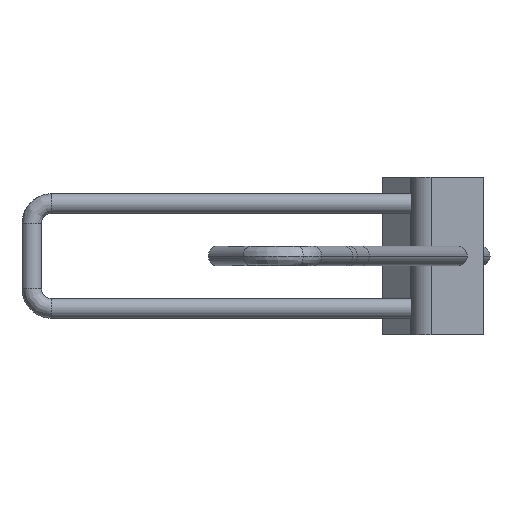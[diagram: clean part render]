
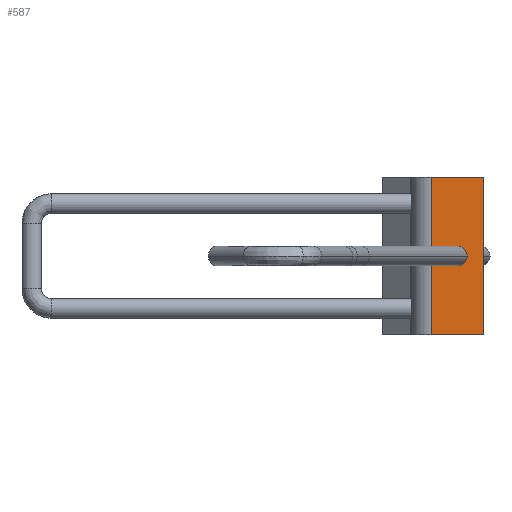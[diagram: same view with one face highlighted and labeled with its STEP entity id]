
A CAD part, left-side view. The second image highlights one B-rep face of the part: STEP entity #587.
In plain terms, the highlighted planar face has unit normal (-1, 0, 0).
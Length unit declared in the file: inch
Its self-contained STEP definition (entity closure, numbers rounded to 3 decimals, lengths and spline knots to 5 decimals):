
#513=EDGE_CURVE('',#1041,#1250,#1251,.T.);
#585=EDGE_CURVE('',#1250,#1359,#1360,.T.);
#587=ADVANCED_FACE('',(#1362,#1363),#1364,.T.);
#693=EDGE_CURVE('',#1509,#1510,#1511,.T.);
#821=EDGE_CURVE('',#1603,#1359,#1675,.T.);
#879=EDGE_CURVE('',#1041,#1603,#1740,.T.);
#925=EDGE_CURVE('',#1510,#1509,#1793,.T.);
#1041=VERTEX_POINT('',#1931);
#1250=VERTEX_POINT('',#2345);
#1251=LINE('',#2346,#2347);
#1359=VERTEX_POINT('',#2864);
#1360=LINE('',#2865,#2866);
#1362=FACE_OUTER_BOUND('',#2868,.T.);
#1363=FACE_BOUND('',#2869,.T.);
#1364=PLANE('',#2870);
#1509=VERTEX_POINT('',#3187);
#1510=VERTEX_POINT('',#3188);
#1511=ELLIPSE('',#3189,0.19058,0.1875);
#1603=VERTEX_POINT('',#3430);
#1675=LINE('',#3569,#3570);
#1740=LINE('',#3872,#3873);
#1793=ELLIPSE('',#3978,0.19058,0.1875);
#1931=CARTESIAN_POINT('',(3.52252,-1.14678,0.0));
#2345=CARTESIAN_POINT('',(3.52252,-0.14678,0.0));
#2346=CARTESIAN_POINT('',(3.52252,-1.14678,0.0));
#2347=VECTOR('',#4422,1.0);
#2864=CARTESIAN_POINT('',(3.52252,-0.14678,3.0));
#2865=CARTESIAN_POINT('',(3.52252,-0.14678,0.0));
#2866=VECTOR('',#4537,1.0);
#2868=EDGE_LOOP('',(#4539,#4540,#4541,#4542));
#2869=EDGE_LOOP('',(#4543,#4544));
#2870=AXIS2_PLACEMENT_3D('',#4545,#4546,#4547);
#3187=CARTESIAN_POINT('',(3.52252,-0.45015,1.5));
#3188=CARTESIAN_POINT('',(3.52252,-0.83131,1.5));
#3189=AXIS2_PLACEMENT_3D('',#4732,#4733,#4734);
#3430=CARTESIAN_POINT('',(3.52252,-1.14678,3.0));
#3569=CARTESIAN_POINT('',(3.52252,-1.14678,3.0));
#3570=VECTOR('',#4931,1.0);
#3872=CARTESIAN_POINT('',(3.52252,-1.14678,0.0));
#3873=VECTOR('',#5010,1.0);
#3978=AXIS2_PLACEMENT_3D('',#5074,#5075,#5076);
#4422=DIRECTION('',(0.0,1.0,0.0));
#4537=DIRECTION('',(0.0,0.0,1.0));
#4539=ORIENTED_EDGE('',*,*,#821,.T.);
#4540=ORIENTED_EDGE('',*,*,#585,.F.);
#4541=ORIENTED_EDGE('',*,*,#513,.F.);
#4542=ORIENTED_EDGE('',*,*,#879,.T.);
#4543=ORIENTED_EDGE('',*,*,#693,.F.);
#4544=ORIENTED_EDGE('',*,*,#925,.F.);
#4545=CARTESIAN_POINT('',(3.52252,-0.64678,0.0));
#4546=DIRECTION('',(-1.0,-0.0,0.0));
#4547=DIRECTION('',(0.0,-1.0,-0.0));
#4732=CARTESIAN_POINT('',(3.52252,-0.64073,1.5));
#4733=DIRECTION('',(-1.0,0.0,0.0));
#4734=DIRECTION('',(0.0,-1.0,0.0));
#4931=DIRECTION('',(0.0,1.0,0.0));
#5010=DIRECTION('',(0.0,0.0,1.0));
#5074=CARTESIAN_POINT('',(3.52252,-0.64073,1.5));
#5075=DIRECTION('',(-1.0,0.0,0.0));
#5076=DIRECTION('',(0.0,-1.0,0.0));
